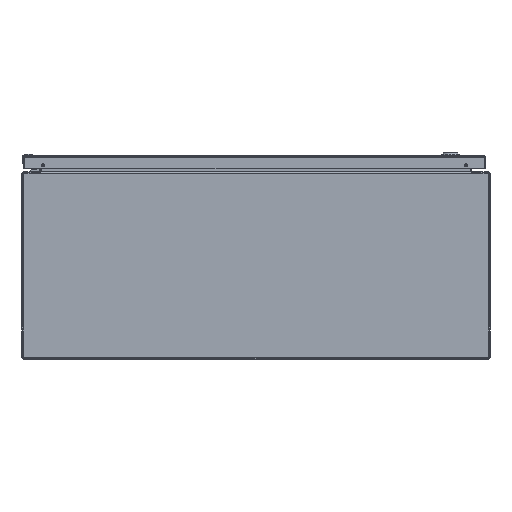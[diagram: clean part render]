
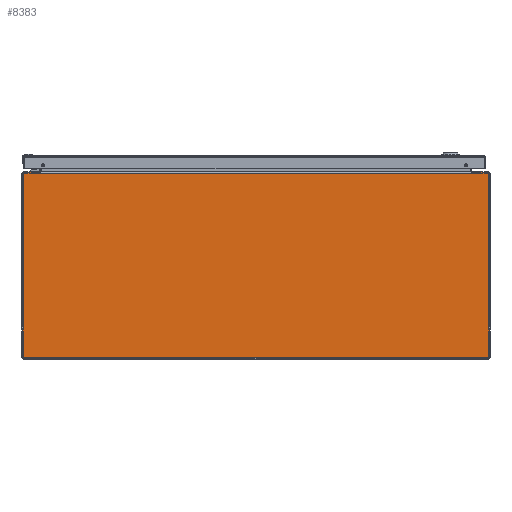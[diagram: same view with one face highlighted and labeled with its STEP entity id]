
A CAD part, front view. The second image highlights one B-rep face of the part: STEP entity #8383.
In plain terms, the highlighted planar face has unit normal (0, -1, 0).
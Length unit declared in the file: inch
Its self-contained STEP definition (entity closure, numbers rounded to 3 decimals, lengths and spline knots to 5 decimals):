
#7486=CARTESIAN_POINT('',(14.887,0.,5.897));
#7487=DIRECTION('',(0.,-1.,0.));
#7488=DIRECTION('',(1.,0.,0.));
#7489=AXIS2_PLACEMENT_3D('',#7486,#7487,#7488);
#7494=DIRECTION('',(0.,0.,-1.));
#7495=VECTOR('',#7494,11.764);
#7496=CARTESIAN_POINT('',(14.967,0.,5.897));
#7497=LINE('',#7496,#7495);
#7501=CARTESIAN_POINT('',(14.887,0.,-5.867));
#7502=DIRECTION('',(0.,-1.,0.));
#7503=DIRECTION('',(0.,0.,-1.));
#7504=AXIS2_PLACEMENT_3D('',#7501,#7502,#7503);
#7509=CARTESIAN_POINT('',(-14.887,0.,-5.867));
#7510=DIRECTION('',(0.,-1.,0.));
#7511=DIRECTION('',(-1.,0.,0.));
#7512=AXIS2_PLACEMENT_3D('',#7509,#7510,#7511);
#7517=DIRECTION('',(0.,0.,1.));
#7518=VECTOR('',#7517,11.764);
#7519=CARTESIAN_POINT('',(-14.967,0.,-5.867));
#7520=LINE('',#7519,#7518);
#7524=CARTESIAN_POINT('',(-14.887,0.,5.897));
#7525=DIRECTION('',(0.,-1.,0.));
#7526=DIRECTION('',(0.,0.,1.));
#7527=AXIS2_PLACEMENT_3D('',#7524,#7525,#7526);
#7539=DIRECTION('',(-1.,0.,0.));
#7540=VECTOR('',#7539,1.062);
#7541=CARTESIAN_POINT('',(14.887,0.,5.977));
#7542=LINE('',#7541,#7540);
#7567=DIRECTION('',(0.,0.,-1.));
#7568=VECTOR('',#7567,0.094);
#7569=CARTESIAN_POINT('',(13.825,0.,5.977));
#7570=LINE('',#7569,#7568);
#7710=DIRECTION('',(1.,0.,0.));
#7711=VECTOR('',#7710,27.65);
#7712=CARTESIAN_POINT('',(-13.825,0.,5.883));
#7713=LINE('',#7712,#7711);
#7754=DIRECTION('',(0.,0.,1.));
#7755=VECTOR('',#7754,0.094);
#7756=CARTESIAN_POINT('',(-13.825,0.,5.883));
#7757=LINE('',#7756,#7755);
#7789=DIRECTION('',(-1.,0.,0.));
#7790=VECTOR('',#7789,1.062);
#7791=CARTESIAN_POINT('',(-13.825,0.,5.977));
#7792=LINE('',#7791,#7790);
#7831=DIRECTION('',(1.,0.,0.));
#7832=VECTOR('',#7831,29.774);
#7833=CARTESIAN_POINT('',(-14.887,0.,-5.947));
#7834=LINE('',#7833,#7832);
#8236=CARTESIAN_POINT('',(-13.825,0.,5.883));
#8237=CARTESIAN_POINT('',(13.825,0.,5.883));
#8238=VERTEX_POINT('',#8236);
#8239=VERTEX_POINT('',#8237);
#8312=CARTESIAN_POINT('',(13.825,0.,5.977));
#8314=VERTEX_POINT('',#8312);
#8316=CARTESIAN_POINT('',(-13.825,0.,5.977));
#8318=VERTEX_POINT('',#8316);
#8320=CARTESIAN_POINT('',(14.967,0.,5.897));
#8321=CARTESIAN_POINT('',(14.887,0.,5.977));
#8322=VERTEX_POINT('',#8320);
#8323=VERTEX_POINT('',#8321);
#8328=CARTESIAN_POINT('',(14.887,0.,-5.947));
#8329=CARTESIAN_POINT('',(14.967,0.,-5.867));
#8330=VERTEX_POINT('',#8328);
#8331=VERTEX_POINT('',#8329);
#8336=CARTESIAN_POINT('',(-14.967,0.,-5.867));
#8337=CARTESIAN_POINT('',(-14.887,0.,-5.947));
#8338=VERTEX_POINT('',#8336);
#8339=VERTEX_POINT('',#8337);
#8344=CARTESIAN_POINT('',(-14.887,0.,5.977));
#8345=CARTESIAN_POINT('',(-14.967,0.,5.897));
#8346=VERTEX_POINT('',#8344);
#8347=VERTEX_POINT('',#8345);
#8352=CARTESIAN_POINT('',(0.,0.,0.));
#8353=DIRECTION('',(0.,-1.,0.));
#8354=DIRECTION('',(-1.,0.,0.));
#8355=AXIS2_PLACEMENT_3D('',#8352,#8353,#8354);
#8356=PLANE('',#8355);
#8358=ORIENTED_EDGE('',*,*,#8357,.F.);
#8360=ORIENTED_EDGE('',*,*,#8359,.T.);
#8362=ORIENTED_EDGE('',*,*,#8361,.F.);
#8364=ORIENTED_EDGE('',*,*,#8363,.F.);
#8366=ORIENTED_EDGE('',*,*,#8365,.F.);
#8368=ORIENTED_EDGE('',*,*,#8367,.T.);
#8370=ORIENTED_EDGE('',*,*,#8369,.F.);
#8372=ORIENTED_EDGE('',*,*,#8371,.F.);
#8374=ORIENTED_EDGE('',*,*,#8373,.F.);
#8376=ORIENTED_EDGE('',*,*,#8375,.T.);
#8378=ORIENTED_EDGE('',*,*,#8377,.F.);
#8380=ORIENTED_EDGE('',*,*,#8379,.F.);
#8381=EDGE_LOOP('',(#8358,#8360,#8362,#8364,#8366,#8368,#8370,#8372,#8374,#8376,
#8378,#8380));
#8382=FACE_OUTER_BOUND('',#8381,.F.);
#7490=CIRCLE('',#7489,0.08);
#7505=CIRCLE('',#7504,0.08);
#7513=CIRCLE('',#7512,0.08);
#7528=CIRCLE('',#7527,0.08);
#8357=EDGE_CURVE('',#8322,#8323,#7490,.T.);
#8359=EDGE_CURVE('',#8322,#8331,#7497,.T.);
#8361=EDGE_CURVE('',#8330,#8331,#7505,.T.);
#8363=EDGE_CURVE('',#8339,#8330,#7834,.T.);
#8365=EDGE_CURVE('',#8338,#8339,#7513,.T.);
#8367=EDGE_CURVE('',#8338,#8347,#7520,.T.);
#8369=EDGE_CURVE('',#8346,#8347,#7528,.T.);
#8371=EDGE_CURVE('',#8318,#8346,#7792,.T.);
#8373=EDGE_CURVE('',#8238,#8318,#7757,.T.);
#8375=EDGE_CURVE('',#8238,#8239,#7713,.T.);
#8377=EDGE_CURVE('',#8314,#8239,#7570,.T.);
#8379=EDGE_CURVE('',#8323,#8314,#7542,.T.);
#8383=ADVANCED_FACE('',(#8382),#8356,.T.);
